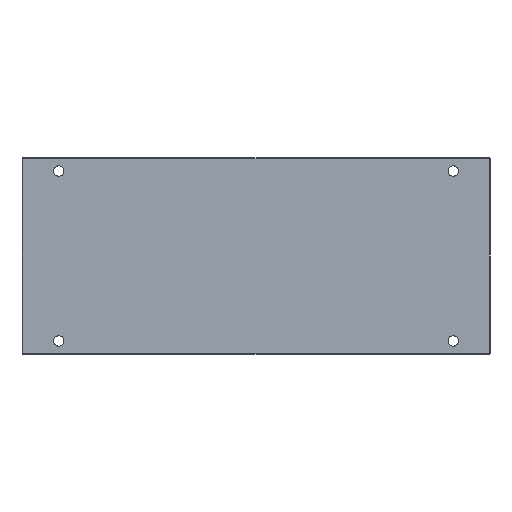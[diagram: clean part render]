
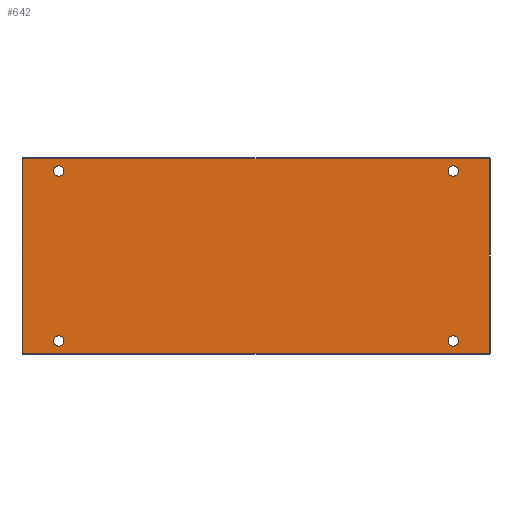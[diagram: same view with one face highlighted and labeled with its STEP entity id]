
A CAD part, front view. The second image highlights one B-rep face of the part: STEP entity #642.
In plain terms, the highlighted planar face has unit normal (0, -1, 0).
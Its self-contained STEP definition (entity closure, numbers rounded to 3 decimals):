
#52=CIRCLE('',#706,5.5);
#53=CIRCLE('',#707,5.5);
#54=CIRCLE('',#708,5.5);
#55=CIRCLE('',#709,5.5);
#124=ORIENTED_EDGE('',*,*,#268,.F.);
#125=ORIENTED_EDGE('',*,*,#269,.F.);
#126=ORIENTED_EDGE('',*,*,#270,.F.);
#127=ORIENTED_EDGE('',*,*,#271,.F.);
#128=ORIENTED_EDGE('',*,*,#272,.F.);
#129=ORIENTED_EDGE('',*,*,#262,.F.);
#130=ORIENTED_EDGE('',*,*,#273,.T.);
#131=ORIENTED_EDGE('',*,*,#264,.T.);
#262=EDGE_CURVE('',#331,#328,#394,.T.);
#264=EDGE_CURVE('',#333,#332,#396,.T.);
#268=EDGE_CURVE('',#336,#336,#52,.T.);
#269=EDGE_CURVE('',#337,#337,#53,.T.);
#270=EDGE_CURVE('',#338,#338,#54,.T.);
#271=EDGE_CURVE('',#339,#339,#55,.T.);
#272=EDGE_CURVE('',#328,#332,#400,.T.);
#273=EDGE_CURVE('',#331,#333,#401,.T.);
#328=VERTEX_POINT('',#1020);
#331=VERTEX_POINT('',#1026);
#332=VERTEX_POINT('',#1030);
#333=VERTEX_POINT('',#1032);
#336=VERTEX_POINT('',#1040);
#337=VERTEX_POINT('',#1042);
#338=VERTEX_POINT('',#1044);
#339=VERTEX_POINT('',#1046);
#394=LINE('',#1027,#442);
#396=LINE('',#1031,#444);
#400=LINE('',#1047,#448);
#401=LINE('',#1048,#449);
#442=VECTOR('',#821,1000.);
#444=VECTOR('',#825,1000.);
#448=VECTOR('',#839,1000.);
#449=VECTOR('',#840,1000.);
#476=EDGE_LOOP('',(#124));
#477=EDGE_LOOP('',(#125));
#478=EDGE_LOOP('',(#126));
#479=EDGE_LOOP('',(#127));
#480=EDGE_LOOP('',(#128,#129,#130,#131));
#550=FACE_BOUND('',#476,.T.);
#551=FACE_BOUND('',#477,.T.);
#552=FACE_BOUND('',#478,.T.);
#553=FACE_BOUND('',#479,.T.);
#554=FACE_BOUND('',#480,.T.);
#620=PLANE('',#705);
#642=ADVANCED_FACE('',(#550,#551,#552,#553,#554),#620,.F.);
#705=AXIS2_PLACEMENT_3D('',#1038,#829,#830);
#706=AXIS2_PLACEMENT_3D('',#1039,#831,#832);
#707=AXIS2_PLACEMENT_3D('',#1041,#833,#834);
#708=AXIS2_PLACEMENT_3D('',#1043,#835,#836);
#709=AXIS2_PLACEMENT_3D('',#1045,#837,#838);
#821=DIRECTION('',(0.,0.,-1.));
#825=DIRECTION('',(0.,0.,-1.));
#829=DIRECTION('',(0.,1.,0.));
#830=DIRECTION('',(0.,0.,1.));
#831=DIRECTION('',(0.,-1.,0.));
#832=DIRECTION('',(0.,0.,-1.));
#833=DIRECTION('',(0.,-1.,0.));
#834=DIRECTION('',(0.,0.,-1.));
#835=DIRECTION('',(0.,-1.,0.));
#836=DIRECTION('',(0.,0.,-1.));
#837=DIRECTION('',(0.,-1.,0.));
#838=DIRECTION('',(0.,0.,-1.));
#839=DIRECTION('',(-1.,0.,0.));
#840=DIRECTION('',(-1.,0.,0.));
#1020=CARTESIAN_POINT('',(247.,0.,-103.));
#1026=CARTESIAN_POINT('',(247.,0.,103.));
#1027=CARTESIAN_POINT('',(247.,0.,104.));
#1030=CARTESIAN_POINT('',(-247.,0.,-103.));
#1031=CARTESIAN_POINT('',(-247.,0.,104.));
#1032=CARTESIAN_POINT('',(-247.,0.,103.));
#1038=CARTESIAN_POINT('',(-247.,0.,104.));
#1039=CARTESIAN_POINT('',(209.,0.,90.));
#1040=CARTESIAN_POINT('',(209.,0.,84.5));
#1041=CARTESIAN_POINT('',(-209.,0.,90.));
#1042=CARTESIAN_POINT('',(-209.,0.,84.5));
#1043=CARTESIAN_POINT('',(209.,0.,-90.));
#1044=CARTESIAN_POINT('',(209.,0.,-95.5));
#1045=CARTESIAN_POINT('',(-209.,0.,-90.));
#1046=CARTESIAN_POINT('',(-209.,0.,-95.5));
#1047=CARTESIAN_POINT('',(248.,0.,-103.));
#1048=CARTESIAN_POINT('',(248.,0.,103.));
